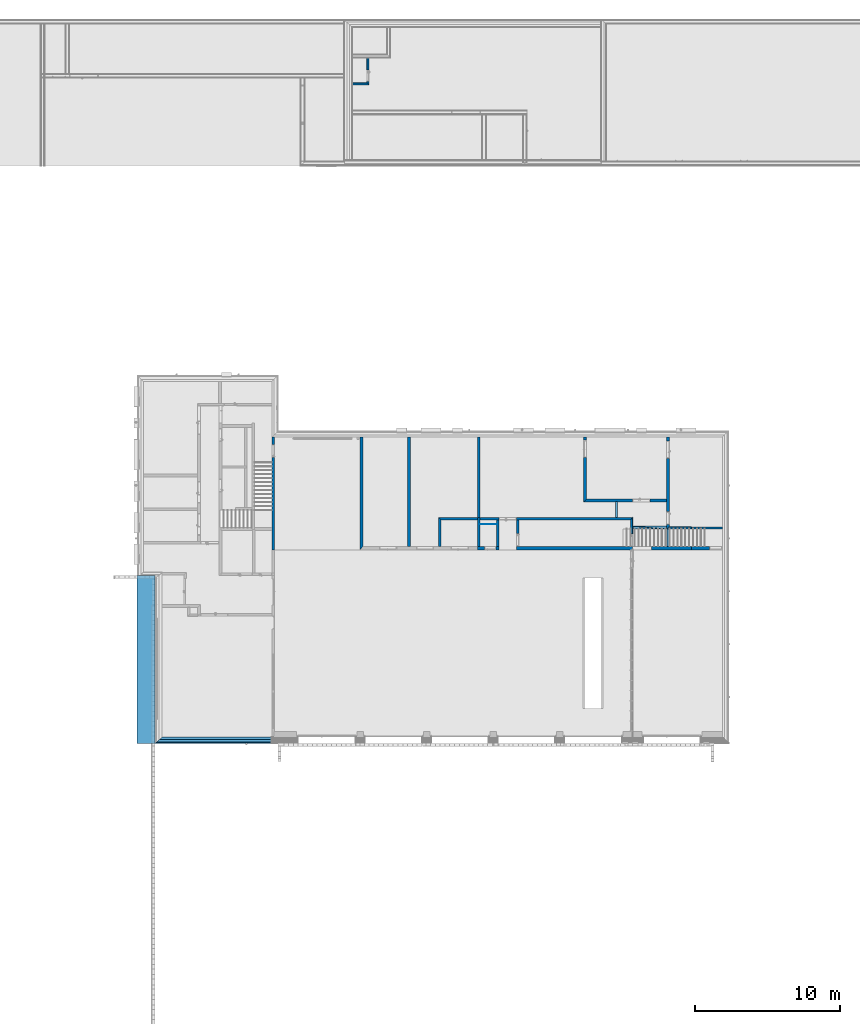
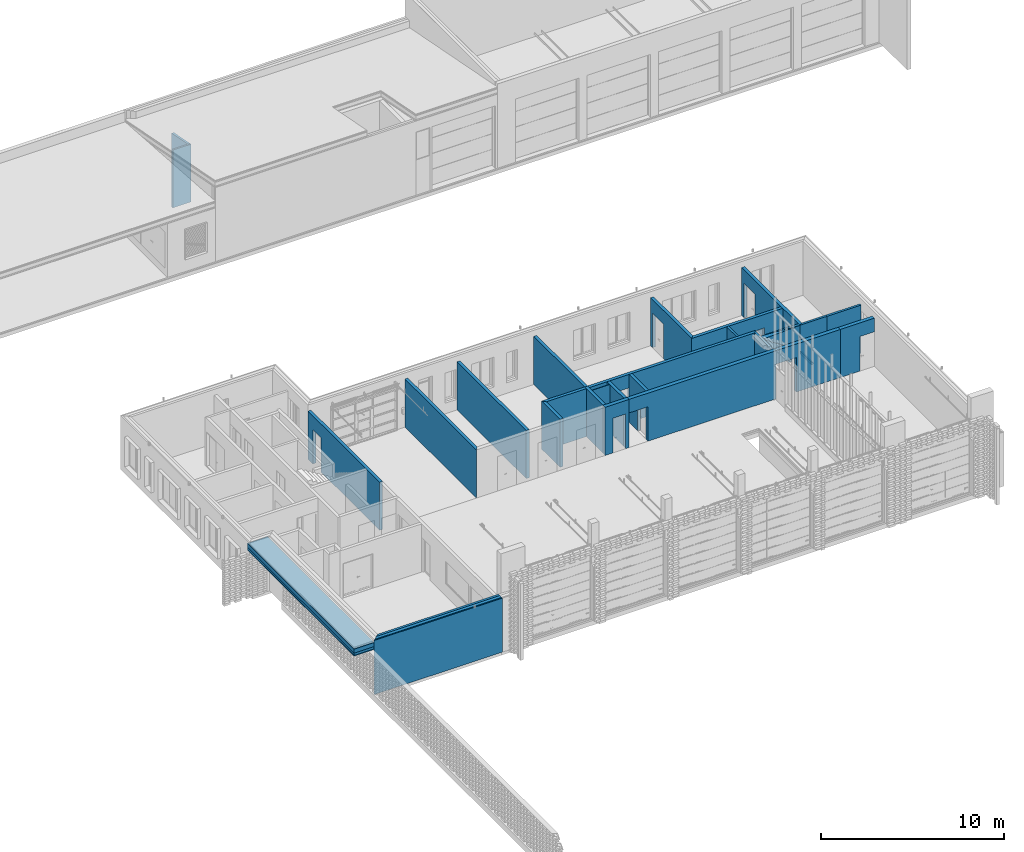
# One storey, part 11 of 62: 24 walls, 8 building element parts, 15 openings, 2 elements without a shape of their own.
"""IFC2X3 building model written with IfcOpenShell, lengths in millimetres."""

from ifc_helpers import new_model, entity, si_unit, converted_unit, derived_unit, money_unit, direction, frame, origin_with_axes, origin_2d_with_axis, place, context, subcontext, project, spatial, polyline, rectangle, outline, extrude, boolean, clip, halfspace, faceted_brep, material, layer, layer_set, layer_usage, type_object, element, aggregate, save


model = new_model("IFC2X3")

# Units and contexts
model_context = context("Model", 3, precision=0.01, world=origin_with_axes(), true_north=direction((0.0, 1.0)))
body_context = subcontext(model_context, "Body", "Model", "MODEL_VIEW")
ifc_project = project(units=[si_unit("LENGTHUNIT", "METRE", prefix="MILLI"), si_unit("AREAUNIT", "SQUARE_METRE"), si_unit("VOLUMEUNIT", "CUBIC_METRE"), converted_unit("PLANEANGLEUNIT", "DEGREE", entity("IfcPlaneAngleMeasure", 0.0174532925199), si_unit("PLANEANGLEUNIT", "RADIAN"), dimensions=[0, 0, 0, 0, 0, 0, 0]), si_unit("SOLIDANGLEUNIT", "STERADIAN"), money_unit("EUR"), converted_unit("TIMEUNIT", "Year", entity("IfcTimeMeasure", 31556926.0), si_unit("TIMEUNIT", "SECOND"), dimensions=[0, 0, 1, 0, 0, 0, 0]), si_unit("MASSUNIT", "GRAM", prefix="KILO"), si_unit("THERMODYNAMICTEMPERATUREUNIT", "DEGREE_CELSIUS"), si_unit("LUMINOUSINTENSITYUNIT", "LUMEN"), si_unit("ENERGYUNIT", "JOULE", prefix="MEGA"), derived_unit("THERMALCONDUCTANCEUNIT", [(si_unit("POWERUNIT", "WATT"), 1), (si_unit("LENGTHUNIT", "METRE"), -1), (si_unit("THERMODYNAMICTEMPERATUREUNIT", "KELVIN"), -1)]), derived_unit("SPECIFICHEATCAPACITYUNIT", [(si_unit("ENERGYUNIT", "JOULE"), 1), (si_unit("MASSUNIT", "GRAM", prefix="KILO"), -1), (si_unit("THERMODYNAMICTEMPERATUREUNIT", "KELVIN"), -1)]), derived_unit("MASSDENSITYUNIT", [(si_unit("MASSUNIT", "GRAM", prefix="KILO"), 1), (si_unit("VOLUMEUNIT", "CUBIC_METRE"), -1)])], contexts=[model_context])

# Site, building, storey
site_placement = place(None, origin_with_axes())
site = spatial("IfcSite", under=ifc_project, at=site_placement, Name="KIRDE 14, ELVA", CompositionType="ELEMENT")
building_placement = place(site_placement, origin_with_axes())
building = spatial("IfcBuilding", under=site, at=building_placement, Name="PPA ja Päästeameti ühishoone", CompositionType="ELEMENT")
storey_placement = place(building_placement, origin_with_axes())
storey = spatial("IfcBuildingStorey", under=building, at=storey_placement, Name="Esimene korrus", CompositionType="ELEMENT", Elevation=0.0)

# Wall, opening
ifc_material_1 = material(Name="COLUMBIA KIVI (BETONEERITUD)")
ifc_layer_1 = layer(ifc_material_1, 240.0, ventilated="UNKNOWN")
ifc_layer_set_1 = layer_set([ifc_layer_1], Name="SS-01")
ifc_layer_usage_1 = layer_usage(ifc_layer_set_1, "AXIS2", "POSITIVE", 0.0)
wall_type_1 = type_object("IfcWallType", Name="SS-01 240", PredefinedType="USERDEFINED")
wall_1_placement = place(storey_placement, frame((37905.0001701, 12960.0005639, 0.0), z_axis=(0.0, 0.0, 1.0), x_axis=(1.0, 4.35257523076e-10, 0.0)))
wall_1 = element("IfcWallStandardCase", 1, at=wall_1_placement, inside=storey, type_object=wall_type_1, material=ifc_layer_usage_1, Name="SS-01", ObjectType="PARTITIONING", context=body_context, shape_type="SweptSolid", body=[
    extrude(outline(polyline([(0.0, 0.0), (2139.70471232, 0.0), (2139.70471242, 240.0), (1.57079682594e-07, 240.0), (0.0, 0.0)])), origin_with_axes(), (0.0, 0.0, 1.0), 3200.0),
])
opening_1_placement = place(wall_1_placement, frame((1689.7047154, 0.0, 0.0), z_axis=(0.0, 0.0, 1.0), x_axis=(1.0, 0.0, 0.0)))
element("IfcOpeningElement", 2, at=opening_1_placement, cuts=wall_1, Name="SU-17*", context=body_context, shape_type="SweptSolid", body=[
    extrude(rectangle(XDim=900.0, YDim=2300.0, at=origin_2d_with_axis()), frame((1.04463993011e-07, 240.0, 1150.0), z_axis=(4.35257523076e-10, 1.0, 0.0), x_axis=(1.0, -4.3525764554e-10, 0.0)), (0.0, 0.0, -1.0), 720.0),
])

# Wall, openings
ifc_layer_usage_2 = layer_usage(ifc_layer_set_1, "AXIS2", "POSITIVE", 0.0)
wall_2_placement = place(storey_placement, frame((24605.5973624, 12960.0005795, 0.0), z_axis=(0.0, 0.0, 1.0), x_axis=(1.0, -8.73701208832e-10, 0.0)))
wall_2 = element("IfcWallStandardCase", 3, at=wall_2_placement, inside=storey, type_object=wall_type_1, material=ifc_layer_usage_2, Name="SS-01", ObjectType="PARTITIONING", context=body_context, shape_type="SweptSolid", body=[
    extrude(outline(polyline([(0.0, 0.0), (13299.4028077, 0.0), (13299.4028076, 240.0), (-1.04844133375e-07, 240.0), (0.0, 0.0)])), origin_with_axes(), (0.0, 0.0, 1.0), 3200.0),
])
opening_2_placement = place(wall_2_placement, frame((9889.40333161, 0.0, 0.0), z_axis=(0.0, 0.0, 1.0), x_axis=(1.0, 0.0, 0.0)))
element("IfcOpeningElement", 4, at=opening_2_placement, cuts=wall_2, context=body_context, shape_type="SweptSolid", body=[
    extrude(rectangle(XDim=1300.0, YDim=2300.0, at=origin_2d_with_axis()), frame((0.0, 8.64038440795e-06, 1150.0), z_axis=(-8.73701208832e-10, 1.0, 0.0), x_axis=(1.0, 8.73701208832e-10, 0.0)), (0.0, 0.0, -1.0), 240.0),
    extrude(rectangle(XDim=1300.0, YDim=2300.0, at=origin_2d_with_axis()), frame((0.0, 8.64038440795e-06, 1150.0), z_axis=(8.73701208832e-10, -1.0, 0.0), x_axis=(1.0, 8.73701208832e-10, 0.0)), (0.0, 0.0, -1.0), 240.0),
])
opening_3_placement = place(wall_2_placement, frame((599.99999968, 0.0, 0.0), z_axis=(0.0, 0.0, 1.0), x_axis=(1.0, 0.0, 0.0)))
element("IfcOpeningElement", 5, at=opening_3_placement, cuts=wall_2, context=body_context, shape_type="SweptSolid", body=[
    extrude(rectangle(XDim=1199.99999915, YDim=2300.0, at=origin_2d_with_axis()), frame((0.0, 5.24220666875e-07, 1150.0), z_axis=(-8.73701208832e-10, 1.0, 0.0), x_axis=(1.0, 8.73701208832e-10, 0.0)), (0.0, 0.0, -1.0), 240.0),
    extrude(rectangle(XDim=1199.99999915, YDim=2300.0, at=origin_2d_with_axis()), frame((0.0, 5.24220666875e-07, 1150.0), z_axis=(8.73701208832e-10, -1.0, 0.0), x_axis=(1.0, 8.73701208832e-10, 0.0)), (0.0, 0.0, -1.0), 240.0),
])

# Wall, opening
ifc_layer_usage_3 = layer_usage(ifc_layer_set_1, "AXIS2", "POSITIVE", 0.0)
wall_3_placement = place(storey_placement, frame((23105.5973624, 12960.0005639, 0.0), z_axis=(0.0, 0.0, 1.0), x_axis=(1.0, 0.0, 0.0)))
wall_3 = element("IfcWallStandardCase", 6, at=wall_3_placement, inside=storey, type_object=wall_type_1, material=ifc_layer_usage_3, Name="SS-01", ObjectType="PARTITIONING", context=body_context, shape_type="SweptSolid", body=[
    extrude(outline(polyline([(0.0, 0.0), (1500.0, 0.0), (1500.0000001, 240.0), (-4.13642453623e-08, 240.0), (0.0, 0.0)])), origin_with_axes(), (0.0, 0.0, 1.0), 3200.0),
])
opening_4_placement = place(wall_3_placement, frame((890.000000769, 0.0, 0.0), z_axis=(0.0, 0.0, 1.0), x_axis=(1.0, 0.0, 0.0)))
element("IfcOpeningElement", 7, at=opening_4_placement, cuts=wall_3, Name="SU-13", context=body_context, shape_type="SweptSolid", body=[
    extrude(rectangle(XDim=800.0, YDim=2300.0, at=origin_2d_with_axis()), frame((0.0, 240.0, 1150.0), z_axis=(0.0, 1.0, 0.0), x_axis=(1.0, 0.0, 0.0)), (0.0, 0.0, -1.0), 720.0),
])

# Wall, openings
ifc_layer_2 = layer(ifc_material_1, 190.0, ventilated="UNKNOWN")
ifc_layer_set_2 = layer_set([ifc_layer_2], Name="SS-02")
ifc_layer_usage_4 = layer_usage(ifc_layer_set_2, "AXIS2", "NEGATIVE", 0.0)
wall_type_2 = type_object("IfcWallType", Name="SS-02 190", PredefinedType="USERDEFINED")
wall_4_placement = place(storey_placement, frame((36194.7090602, 14405.0003528, 0.0), z_axis=(0.0, 0.0, 1.0), x_axis=(0.0, 1.0, 0.0)))
wall_4 = element("IfcWallStandardCase", 8, at=wall_4_placement, inside=storey, type_object=wall_type_2, material=ifc_layer_usage_4, Name="SS-02", ObjectType="PARTITIONING", context=body_context, shape_type="SweptSolid", body=[
    extrude(outline(polyline([(140.0, -190.0), (6344.59128709, -190.0), (6344.59128702, 0.0), (0.0, 0.0), (140.0, -190.0)])), origin_with_axes(), (0.0, 0.0, 1.0), 3200.0),
])
opening_5_placement = place(wall_4_placement, frame((740.0, 0.0, 0.0), z_axis=(0.0, 0.0, 1.0), x_axis=(1.0, 0.0, 0.0)))
element("IfcOpeningElement", 9, at=opening_5_placement, cuts=wall_4, Name="SU-15", context=body_context, shape_type="SweptSolid", body=[
    extrude(rectangle(XDim=900.0, YDim=2300.0, at=origin_2d_with_axis()), frame((0.0, 190.0, 1150.0), z_axis=(0.0, -1.0, 0.0), x_axis=(-1.0, 0.0, 0.0)), (0.0, 0.0, 1.0), 570.0),
])
opening_6_placement = place(wall_4_placement, frame((5484.68137352, 0.0, 0.0), z_axis=(0.0, 0.0, 1.0), x_axis=(1.0, 0.0, 0.0)))
element("IfcOpeningElement", 10, at=opening_6_placement, cuts=wall_4, Name="SU-16", context=body_context, shape_type="SweptSolid", body=[
    extrude(rectangle(XDim=1200.0, YDim=2300.0, at=origin_2d_with_axis()), frame((0.0, -190.0, 1150.0), z_axis=(0.0, -1.0, 0.0), x_axis=(1.0, 0.0, 0.0)), (0.0, 0.0, -1.0), 570.0),
])

# Wall, opening
ifc_layer_usage_5 = layer_usage(ifc_layer_set_2, "AXIS2", "NEGATIVE", 0.0)
wall_5_placement = place(storey_placement, frame((30459.7991696, 16270.681719, 0.0), z_axis=(0.0, 0.0, 1.0), x_axis=(0.0, 1.0, 0.0)))
wall_5 = element("IfcWallStandardCase", 11, at=wall_5_placement, inside=storey, type_object=wall_type_2, material=ifc_layer_usage_5, Name="SS-02", ObjectType="PARTITIONING", context=body_context, shape_type="SweptSolid", body=[
    extrude(outline(polyline([(190.000000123, -190.0), (4478.9099186, -190.0), (4478.90991852, 0.0), (0.0, 0.0), (190.000000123, -190.0)])), origin_with_axes(), (0.0, 0.0, 1.0), 3200.0),
])
opening_7_placement = place(wall_5_placement, frame((3669.00000353, 0.0, 0.0), z_axis=(0.0, 0.0, 1.0), x_axis=(1.0, 0.0, 0.0)))
element("IfcOpeningElement", 12, at=opening_7_placement, cuts=wall_5, Name="SU-16", context=body_context, shape_type="SweptSolid", body=[
    extrude(rectangle(XDim=1200.0, YDim=2300.0, at=origin_2d_with_axis()), frame((0.0, -190.0, 1150.0), z_axis=(0.0, 1.0, 0.0), x_axis=(1.0, 0.0, 0.0)), (0.0, 0.0, 1.0), 570.0),
])

# Walls
ifc_layer_usage_6 = layer_usage(ifc_layer_set_2, "AXIS2", "NEGATIVE", 0.0)
wall_6_placement = place(storey_placement, frame((24415.5973398, 12960.0005639, 0.0), z_axis=(0.0, 0.0, 1.0), x_axis=(0.0, 1.0, 0.0)))
element("IfcWallStandardCase", 13, at=wall_6_placement, inside=storey, type_object=wall_type_2, material=ifc_layer_usage_6, Name="SS-02", ObjectType="PARTITIONING", context=body_context, shape_type="SweptSolid", body=[
    extrude(outline(polyline([(240.0, -190.0), (2057.37070352, -190.0), (2057.37070352, 0.0), (240.0, 0.0), (240.0, -190.0)])), origin_with_axes(), (0.0, 0.0, 1.0), 3200.0),
])
ifc_layer_usage_7 = layer_usage(ifc_layer_set_2, "AXIS2", "NEGATIVE", 0.0)
wall_7_placement = place(storey_placement, frame((23105.5973617, 12960.0005639, 0.0), z_axis=(0.0, 0.0, 1.0), x_axis=(0.0, 1.0, 0.0)))
element("IfcWallStandardCase", 14, at=wall_7_placement, inside=storey, type_object=wall_type_2, material=ifc_layer_usage_7, Name="SS-02", ObjectType="PARTITIONING", context=body_context, shape_type="SweptSolid", body=[
    extrude(outline(polyline([(240.0, -190.0), (2227.37070141, -190.0), (2227.37070138, 0.0), (240.0, 0.0), (240.0, -190.0)])), origin_with_axes(), (0.0, 0.0, 1.0), 3200.0),
])
ifc_layer_usage_8 = layer_usage(ifc_layer_set_2, "AXIS2", "NEGATIVE", 0.0)
wall_8_placement = place(storey_placement, frame((20404.8316405, 12960.0005656, 0.0), z_axis=(0.0, 0.0, 1.0), x_axis=(0.0, 1.0, 0.0)))
element("IfcWallStandardCase", 15, at=wall_8_placement, inside=storey, type_object=wall_type_2, material=ifc_layer_usage_8, Name="SS-02", ObjectType="PARTITIONING", context=body_context, shape_type="SweptSolid", body=[
    extrude(outline(polyline([(240.000000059, -190.0), (2057.37070184, -190.0), (2247.37070184, 0.0), (239.999999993, 0.0), (240.000000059, -190.0)])), origin_with_axes(), (0.0, 0.0, 1.0), 3200.0),
])
ifc_layer_usage_9 = layer_usage(ifc_layer_set_2, "AXIS2", "NEGATIVE", 0.0)
wall_9_placement = place(storey_placement, frame((18275.8940318, 12960.0005649, 0.0), z_axis=(0.0, 0.0, 1.0), x_axis=(-4.76955186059e-10, 1.0, 0.0)))
element("IfcWallStandardCase", 16, at=wall_9_placement, inside=storey, type_object=wall_type_2, material=ifc_layer_usage_9, Name="SS-02", ObjectType="PARTITIONING", context=body_context, shape_type="SweptSolid", body=[
    extrude(outline(polyline([(239.999999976, -190.0), (7789.59106796, -190.0), (7789.59106797, 0.0), (240.000000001, 0.0), (239.999999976, -190.0)])), origin_with_axes(), (0.0, 0.0, 1.0), 3200.0),
])
ifc_layer_usage_10 = layer_usage(ifc_layer_set_2, "AXIS2", "NEGATIVE", 0.0)
wall_10_placement = place(storey_placement, frame((15000.0001537, 12960.0005637, 0.0), z_axis=(0.0, 0.0, 1.0), x_axis=(0.0, 1.0, 0.0)))
element("IfcWallStandardCase", 17, at=wall_10_placement, inside=storey, type_object=wall_type_2, material=ifc_layer_usage_10, Name="SS-02", ObjectType="PARTITIONING", context=body_context, shape_type="SweptSolid", body=[
    extrude(outline(polyline([(240.000000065, -190.0), (7789.5910679, -190.0), (7789.59106783, 0.0), (0.0, 0.0), (240.000000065, -190.0)])), origin_with_axes(), (0.0, 0.0, 1.0), 3200.0),
])

# Wall, opening
ifc_layer_usage_11 = layer_usage(ifc_layer_set_2, "AXIS2", "POSITIVE", -190.0)
wall_11_placement = place(storey_placement, frame((9090.00013815, 20749.5916283, 0.0), z_axis=(0.0, 0.0, 1.0), x_axis=(4.17334458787e-10, -1.0, 0.0)))
wall_11 = element("IfcWallStandardCase", 18, at=wall_11_placement, inside=storey, type_object=wall_type_2, material=ifc_layer_usage_11, Name="SS-02", ObjectType="PARTITIONING", context=body_context, shape_type="SweptSolid", body=[
    extrude(outline(polyline([(-1.01061559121e-06, -190.0), (7810.5915831, -190.0), (7810.59158314, 0.0), (-1.005183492e-06, 0.0), (-1.01061559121e-06, -190.0)])), origin_with_axes(), (0.0, 0.0, 1.0), 3200.0),
])
opening_8_placement = place(wall_11_placement, frame((967.347169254, 0.0, 0.0), z_axis=(0.0, 0.0, 1.0), x_axis=(1.0, 0.0, 0.0)))
element("IfcOpeningElement", 19, at=opening_8_placement, cuts=wall_11, Name="SU-17*", context=body_context, shape_type="SweptSolid", body=[
    extrude(rectangle(XDim=900.0, YDim=2300.0, at=origin_2d_with_axis()), frame((0.0, -190.0, 1150.0), z_axis=(-4.17334458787e-10, -1.0, 0.0), x_axis=(-1.0, 4.17334642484e-10, 0.0)), (0.0, 0.0, -1.0), 570.0),
])

ifc_layer_usage_12 = layer_usage(ifc_layer_set_2, "AXIS2", "POSITIVE", 0.0)
wall_12_placement = place(storey_placement, frame((30459.7991714, 16270.681719, 0.0), z_axis=(0.0, 0.0, 1.0), x_axis=(1.0, 6.49581313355e-10, 0.0)))
wall_12 = element("IfcWallStandardCase", 20, at=wall_12_placement, inside=storey, type_object=wall_type_2, material=ifc_layer_usage_12, Name="SS-02", ObjectType="PARTITIONING", context=body_context, shape_type="SweptSolid", body=[
    extrude(outline(polyline([(-1.86264514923e-06, 0.0), (5734.90988882, 0.0), (5734.90988895, 190.0), (189.999998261, 190.0), (-1.86264514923e-06, 0.0)])), origin_with_axes(), (0.0, 0.0, 1.0), 3200.0),
])
opening_9_placement = place(wall_12_placement, frame((3985.20152122, 0.0, 0.0), z_axis=(0.0, 0.0, 1.0), x_axis=(1.0, 0.0, 0.0)))
element("IfcOpeningElement", 21, at=opening_9_placement, cuts=wall_12, Name="SU-12", context=body_context, shape_type="SweptSolid", body=[
    extrude(rectangle(XDim=1200.0, YDim=2300.0, at=origin_2d_with_axis()), frame((1.23421273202e-07, 190.0, 1150.0), z_axis=(-6.49581313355e-10, -1.0, 0.0), x_axis=(1.0, -6.49581313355e-10, 0.0)), (0.0, 0.0, 1.0), 570.0),
])

ifc_layer_usage_13 = layer_usage(ifc_layer_set_2, "AXIS2", "POSITIVE", 0.0)
wall_13_placement = place(storey_placement, frame((25805.5973616, 15207.3712638, 0.0), z_axis=(0.0, 0.0, 1.0), x_axis=(0.0, -1.0, 0.0)))
wall_13 = element("IfcWallStandardCase", 22, at=wall_13_placement, inside=storey, type_object=wall_type_2, material=ifc_layer_usage_13, Name="SS-02", ObjectType="PARTITIONING", context=body_context, shape_type="SweptSolid", body=[
    extrude(outline(polyline([(189.999996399, 0.0), (2007.37068536, 0.0), (2007.37068552, 190.0), (189.999996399, 190.0), (189.999996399, 0.0)])), origin_with_axes(), (0.0, 0.0, 1.0), 3200.0),
])
opening_10_placement = place(wall_13_placement, frame((1557.37070152, 0.0, 0.0), z_axis=(0.0, 0.0, 1.0), x_axis=(1.0, 0.0, 0.0)))
element("IfcOpeningElement", 23, at=opening_10_placement, cuts=wall_13, Name="SU-14", context=body_context, shape_type="SweptSolid", body=[
    extrude(rectangle(XDim=900.0, YDim=2300.0, at=origin_2d_with_axis()), frame((0.0, 190.0, 1150.0), z_axis=(0.0, -1.0, 0.0), x_axis=(1.0, 0.0, 0.0)), (0.0, 0.0, 1.0), 570.0),
])

# Wall
ifc_layer_usage_14 = layer_usage(ifc_layer_set_2, "AXIS2", "NEGATIVE", 0.0)
wall_14_placement = place(storey_placement, frame((23105.5973617, 15187.3712653, 0.0), z_axis=(0.0, 0.0, 1.0), x_axis=(-2.93015090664e-10, 1.0, 0.0)))
element("IfcWallStandardCase", 24, at=wall_14_placement, inside=storey, type_object=wall_type_2, material=ifc_layer_usage_14, Name="SS-02", ObjectType="PARTITIONING", context=body_context, shape_type="SweptSolid", body=[
    extrude(outline(polyline([(-2.78372880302e-08, -190.0), (5562.22036942, -190.0), (5562.2203694, 0.0), (0.0, 0.0), (-2.78372880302e-08, -190.0)])), origin_with_axes(), (0.0, 0.0, 1.0), 3200.0),
])

# Wall, opening
ifc_layer_usage_15 = layer_usage(ifc_layer_set_2, "AXIS2", "NEGATIVE", 0.0)
wall_15_placement = place(storey_placement, frame((20404.8316391, 15207.3712674, 0.0), z_axis=(0.0, 0.0, 1.0), x_axis=(1.0, 0.0, 0.0)))
wall_15 = element("IfcWallStandardCase", 25, at=wall_15_placement, inside=storey, type_object=wall_type_2, material=ifc_layer_usage_15, Name="SS-02", ObjectType="PARTITIONING", context=body_context, shape_type="SweptSolid", body=[
    extrude(outline(polyline([(190.000001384, -190.0), (13295.1690317, -190.0), (13435.1690317, 0.0), (1.3842509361e-06, 0.0), (190.000001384, -190.0)])), origin_with_axes(), (0.0, 0.0, 1.0), 3200.0),
])
opening_11_placement = place(wall_15_placement, frame((4800.76572309, 0.0, 0.0), z_axis=(0.0, 0.0, 1.0), x_axis=(1.0, 0.0, 0.0)))
element("IfcOpeningElement", 26, at=opening_11_placement, cuts=wall_15, Name="SU-12", context=body_context, shape_type="SweptSolid", body=[
    extrude(rectangle(XDim=1200.0, YDim=2300.0, at=origin_2d_with_axis()), frame((0.0, 190.0, 1150.0), z_axis=(0.0, 1.0, 0.0), x_axis=(1.0, 0.0, 0.0)), (0.0, 0.0, -1.0), 570.0),
])

# Wall
ifc_material_2 = material(Name="Kergplokk")
ifc_layer_3 = layer(ifc_material_2, 140.0, ventilated="UNKNOWN")
ifc_layer_set_3 = layer_set([ifc_layer_3], Name="SS-03 (COLUMBIA 140)")
ifc_layer_usage_16 = layer_usage(ifc_layer_set_3, "AXIS2", "NEGATIVE", 140.0)
wall_type_3 = type_object("IfcWallType", Name="SS-03 (COLUMBIA 140) 140", PredefinedType="USERDEFINED")
wall_16_placement = place(storey_placement, frame((36194.7090602, 14405.0003528, 0.0), z_axis=(0.0, 0.0, 1.0), x_axis=(1.0, 0.0, 0.0)))
element("IfcWallStandardCase", 27, at=wall_16_placement, inside=storey, type_object=wall_type_3, material=ifc_layer_usage_16, Name="SS-06", ObjectType="PARTITIONING", context=body_context, shape_type="SweptSolid", body=[
    extrude(outline(polyline([(0.0, 0.0), (1710.29110893, 0.0), (1710.2911089, 140.0), (190.0, 140.0), (0.0, 0.0)])), origin_with_axes(), (0.0, 0.0, 1.0), 3200.0),
])

# Wall, opening
wall_17_placement = place(storey_placement, frame((36344.7090625, 12960.0005672, 0.0), z_axis=(0.0, 0.0, 1.0), x_axis=(0.0, 1.0, 0.0)))
wall_17 = element("IfcWall", 28, at=wall_17_placement, inside=storey, type_object=wall_type_3, material=ifc_material_2, Name="SS-14", ObjectType="PARTITIONING", context=body_context, shape_type="CSG", body=[
    boolean("DIFFERENCE", extrude(outline(polyline([(0.0, 0.0), (1439.99999666, 0.0), (1439.99999666, 140.0), (0.0, 140.0), (0.0, 0.0)])), origin_with_axes(), (0.0, 0.0, 1.0), 1565.0444117), faceted_brep([(240.000002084, 0.0, 0.0), (239.999989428, 0.0, 1401.44401583), (1439.99999605, 0.0, 1401.44401552), (1439.99999666, 0.0, 1565.0444117), (0.0, 0.0, 1565.0444117), (0.0, 0.0, 0.0), (240.000002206, 140.0, 0.0), (239.999989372, 140.0, 1490.33290472), (239.999989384, 110.00417697, 1471.28793771), (239.99998942, 20.0041769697, 1414.14508057), (1439.99999604, 20.0041774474, 1414.14508057), (1439.999996, 110.004177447, 1471.28793771), (1439.99999599, 140.0, 1490.33290441), (1439.99999666, 140.0, 1565.0444117), (0.0, 140.0, 1565.0444117), (0.0, 140.0, 0.0)], [[[0, 1, 2, 3, 4, 5]], [[1, 0, 6, 7, 8, 9]], [[10, 2, 1, 9]], [[11, 12, 13, 3, 2, 10]], [[14, 4, 3, 13]], [[14, 15, 5, 4]], [[6, 0, 5, 15]], [[7, 6, 15, 14, 13, 12]], [[12, 11, 8, 7]], [[11, 10, 9, 8]]])),
])
opening_12_placement = place(wall_17_placement, frame((839.999999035, 0.0, 0.0), z_axis=(0.0, 0.0, 1.0), x_axis=(1.0, 0.0, 0.0)))
element("IfcOpeningElement", 29, at=opening_12_placement, cuts=wall_17, Name="SU-13", context=body_context, shape_type="SweptSolid", body=[
    extrude(rectangle(XDim=1199.9999939, YDim=1300.0, at=origin_2d_with_axis()), frame((0.0, 140.0, 650.0), z_axis=(0.0, -1.0, 0.0), x_axis=(1.0, 0.0, 0.0)), (0.0, 0.0, -1.0), 140.0),
    extrude(rectangle(XDim=1199.9999939, YDim=1300.0, at=origin_2d_with_axis()), frame((0.0, 140.0, 650.0), z_axis=(0.0, 1.0, 0.0), x_axis=(1.0, 0.0, 0.0)), (0.0, 0.0, -1.0), 140.0),
])

ifc_layer_usage_17 = layer_usage(ifc_layer_set_3, "AXIS2", "NEGATIVE", 140.0)
wall_18_placement = place(storey_placement, frame((32811.5289337, 15187.371269, 0.0), z_axis=(0.0, 0.0, 1.0), x_axis=(-4.2244114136e-10, 1.0, 0.0)))
wall_18 = element("IfcWallStandardCase", 30, at=wall_18_placement, inside=storey, type_object=wall_type_3, material=ifc_layer_usage_17, Name="SS-13", ObjectType="PARTITIONING", context=body_context, shape_type="SweptSolid", body=[
    extrude(outline(polyline([(0.0, 0.0), (1102.31045634, 0.0), (1102.31045634, 140.0), (0.0, 140.0), (0.0, 0.0)])), origin_with_axes(), (0.0, 0.0, 1.0), 3200.0),
])
opening_13_placement = place(wall_18_placement, frame((551.155227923, 0.0, 0.0), z_axis=(0.0, 0.0, 1.0), x_axis=(1.0, 0.0, 0.0)))
element("IfcOpeningElement", 31, at=opening_13_placement, cuts=wall_18, context=body_context, shape_type="SweptSolid", body=[
    extrude(rectangle(XDim=1102.31045585, YDim=2300.0, at=origin_2d_with_axis()), frame((0.0, -2.32830643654e-07, 1150.0), z_axis=(4.2244114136e-10, 1.0, 0.0), x_axis=(1.0, -4.22441202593e-10, 0.0)), (0.0, 0.0, -1.0), 140.0),
    extrude(rectangle(XDim=1102.31045585, YDim=2300.0, at=origin_2d_with_axis()), frame((0.0, -2.32830643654e-07, 1150.0), z_axis=(-4.2244114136e-10, -1.0, 0.0), x_axis=(1.0, -4.22441202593e-10, 0.0)), (0.0, 0.0, -1.0), 140.0),
])

ifc_layer_usage_18 = layer_usage(ifc_layer_set_3, "AXIS2", "POSITIVE", -140.0)
wall_19_placement = place(storey_placement, frame((15607.7764983, 46991.7591423, 0.0), z_axis=(0.0, 0.0, 1.0), x_axis=(0.0, -1.0, 0.0)))
wall_19 = element("IfcWallStandardCase", 32, at=wall_19_placement, inside=storey, type_object=wall_type_3, material=ifc_layer_usage_18, Name="ASS-01", ObjectType="PARTITIONING", context=body_context, shape_type="Clipping", body=[
    clip(extrude(outline(polyline([(-5.14347675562e-07, -140.0), (1743.60562925, -140.0), (1883.60562925, 0.0), (-5.14347675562e-07, 0.0), (-5.14347675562e-07, -140.0)])), origin_with_axes(), (0.0, 0.0, 1.0), 4242.94093413), halfspace(frame((-650.580307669, -2.28603527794e-07, 3352.957647), z_axis=(0.190479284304, 0.0, -0.981691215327), x_axis=(0.0, 1.0, 0.0)), True)),
])
opening_14_placement = place(wall_19_placement, frame((1249.80792898, 0.0, 0.0), z_axis=(0.0, 0.0, 1.0), x_axis=(1.0, 0.0, 0.0)))
element("IfcOpeningElement", 33, at=opening_14_placement, cuts=wall_19, Name="SU-13", context=body_context, shape_type="SweptSolid", body=[
    extrude(rectangle(XDim=800.0, YDim=2300.0, at=origin_2d_with_axis()), frame((0.0, -140.0, 1150.0), z_axis=(0.0, 1.0, 0.0), x_axis=(1.0, 0.0, 0.0)), (0.0, 0.0, 1.0), 420.0),
])

ifc_layer_usage_19 = layer_usage(ifc_layer_set_3, "AXIS2", "NEGATIVE", 140.0)
wall_20_placement = place(storey_placement, frame((33840.0006708, 12960.000566, 0.0), z_axis=(0.0, 0.0, 1.0), x_axis=(0.0, 1.0, 0.0)))
wall_20 = element("IfcWallStandardCase", 34, at=wall_20_placement, inside=storey, type_object=wall_type_3, material=ifc_layer_usage_19, Name="SS-03", ObjectType="PARTITIONING", context=body_context, shape_type="SweptSolid", body=[
    extrude(outline(polyline([(240.000005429, 0.0), (2247.37070141, 0.0), (2057.37070141, 140.0), (240.000005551, 140.0), (240.000005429, 0.0)])), origin_with_axes(), (0.0, 0.0, 1.0), 3200.0),
])
opening_15_placement = place(wall_20_placement, frame((668.999304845, 0.0, 0.0), z_axis=(0.0, 0.0, 1.0), x_axis=(1.0, 0.0, 0.0)))
element("IfcOpeningElement", 35, at=opening_15_placement, cuts=wall_20, Name="SU-15", context=body_context, shape_type="SweptSolid", body=[
    extrude(rectangle(XDim=900.0, YDim=2300.0, at=origin_2d_with_axis()), frame((0.0, 140.0, 1150.0), z_axis=(0.0, 1.0, 0.0), x_axis=(-1.0, 0.0, 0.0)), (0.0, 0.0, -1.0), 420.0),
])

# Walls
ifc_layer_usage_20 = layer_usage(ifc_layer_set_3, "AXIS2", "NEGATIVE", 140.0)
wall_21_placement = place(storey_placement, frame((37905.0001692, 14405.0003528, 0.0), z_axis=(0.0, 0.0, 1.0), x_axis=(1.0, 4.35257522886e-10, 0.0)))
element("IfcWallStandardCase", 36, at=wall_21_placement, inside=storey, type_object=wall_type_3, material=ifc_layer_usage_20, Name="SS-06", ObjectType="PARTITIONING", context=body_context, shape_type="SweptSolid", body=[
    extrude(outline(polyline([(0.0, 0.0), (2139.70471325, 0.0), (2139.70471331, 140.0), (3.04751779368e-08, 140.0), (0.0, 0.0)])), origin_with_axes(), (0.0, 0.0, 1.0), 3200.0),
])
ifc_layer_usage_21 = layer_usage(ifc_layer_set_3, "AXIS2", "POSITIVE", -140.0)
wall_22_placement = place(storey_placement, frame((15607.7764983, 45108.1535131, 0.0), z_axis=(0.0, 0.0, 1.0), x_axis=(-1.0, 0.0, 0.0)))
element("IfcWallStandardCase", 37, at=wall_22_placement, inside=storey, type_object=wall_type_3, material=ifc_layer_usage_21, Name="ASS-01", ObjectType="PARTITIONING", context=body_context, shape_type="Clipping", body=[
    clip(extrude(outline(polyline([(140.0, -140.0), (1156.80336605, -140.0), (1156.80336605, 0.0), (0.0, 0.0), (140.0, -140.0)])), origin_with_axes(), (0.0, 0.0, 1.0), 4242.94093413), halfspace(frame((2.52617693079e-07, -718.921960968, 3705.17652964), z_axis=(0.0, 0.190479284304, -0.981691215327), x_axis=(0.0, 0.981691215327, 0.190479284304)), True)),
])
ifc_material_3 = material(Name="Kipsplaat (3)")
ifc_layer_4 = layer(ifc_material_3, 24.0, ventilated="UNKNOWN")
ifc_layer_set_4 = layer_set([ifc_layer_4], Name="Kipsplaat (3) 24")
ifc_layer_usage_22 = layer_usage(ifc_layer_set_4, "AXIS2", "POSITIVE", -24.0)
wall_type_4 = type_object("IfcWallType", Name="Kipsplaat (3) 24", PredefinedType="USERDEFINED")
wall_23_placement = place(storey_placement, frame((24415.5973398, 14717.3712674, 0.0), z_axis=(0.0, 0.0, 1.0), x_axis=(-1.0, 0.0, 0.0)))
element("IfcWallStandardCase", 38, at=wall_23_placement, inside=storey, type_object=wall_type_4, material=ifc_layer_usage_22, Name="KIPSPLAAT", ObjectType="PARTITIONING", context=body_context, shape_type="SweptSolid", body=[
    extrude(outline(polyline([(0.0, -24.0), (1119.99997808, -24.0), (1119.99997808, 0.0), (0.0, 0.0), (0.0, -24.0)])), origin_with_axes(), (0.0, 0.0, 1.0), 3200.0),
])
wall_type_5 = type_object("IfcWallType", Name="MISSING", PredefinedType="USERDEFINED")
wall_24_placement = place(storey_placement, origin_with_axes())
element("IfcWall", 39, at=wall_24_placement, inside=storey, type_object=wall_type_5, Name="Vent pipe antifreeze-110", ObjectType="PARTITIONING", context=body_context, shape_type="Brep", body=[
    faceted_brep([(33845.0006926, 14590.0005639, 3097.93103768), (33845.0006926, 14590.0005639, 3200.0), (36194.7090602, 14590.0005639, 3200.0), (36194.7090602, 14590.0005639, 1553.8992341), (33845.4416895, 14400.0005622, 3097.93103768), (36194.7090602, 14400.0005639, 3200.0), (36194.7090625, 14400.0005632, 1553.8992341)], [[[0, 1, 2, 3]], [[4, 1, 0]], [[1, 5, 2]], [[2, 5, 6, 3]], [[4, 0, 3]], [[1, 4, 5]], [[5, 4, 6]], [[4, 3, 6]]]),
])

# Wall, building element parts
wall_type_6 = type_object("IfcWallType", Name="VS-01 430", PredefinedType="NOTDEFINED")
wall_25_placement = place(storey_placement, frame((8900.00016196, 3.70346242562e-06, 0.0), z_axis=(0.0, 0.0, 1.0), x_axis=(-1.0, -4.90169775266e-10, 0.0)))
wall_25 = element("IfcWall", 40, at=wall_25_placement, inside=storey, type_object=wall_type_6, Name="VS-01")
ifc_material_4 = material(Name="Raudbetoon Paneelid (2)")
building_element_part_1_placement = place(wall_25_placement, origin_with_axes())
building_element_part_1 = element("IfcBuildingElementPart", 41, at=building_element_part_1_placement, material=ifc_material_4, Name="Raudbetoon Paneelid (2)", context=body_context, shape_type="SweptSolid", body=[
    extrude(outline(polyline([(0.0, 0.0), (7600.00001872, 0.0), (7767.44187926, 150.0), (9.84989867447e-09, 150.0), (0.0, 0.0)])), origin_with_axes(), (0.0, 0.0, 1.0), 3600.0),
])
ifc_material_5 = material(Name="Vahtpolüstüreen (4)")
building_element_part_2_placement = place(wall_25_placement, origin_with_axes())
building_element_part_2 = element("IfcBuildingElementPart", 42, at=building_element_part_2_placement, material=ifc_material_5, Name="Vahtpolüstüreen (4)", context=body_context, shape_type="SweptSolid", body=[
    extrude(outline(polyline([(9.84989867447e-09, 150.0), (7767.44187926, 150.0), (7990.69769331, 350.0), (2.29825047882e-08, 350.0), (9.84989867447e-09, 150.0)])), origin_with_axes(), (0.0, 0.0, 1.0), 3600.0),
])
building_element_part_3_placement = place(wall_25_placement, origin_with_axes())
building_element_part_3 = element("IfcBuildingElementPart", 43, at=building_element_part_3_placement, material=ifc_material_4, Name="Raudbetoon Paneelid (2)", context=body_context, shape_type="SweptSolid", body=[
    extrude(outline(polyline([(2.29825047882e-08, 350.0), (7990.69769331, 350.0), (8080.00001893, 430.0), (2.82369683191e-08, 430.0), (2.29825047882e-08, 350.0)])), origin_with_axes(), (0.0, 0.0, 1.0), 3600.0),
])
aggregate(wall_25, [building_element_part_1, building_element_part_2, building_element_part_3])

# Slab, building element parts
slab_type = type_object("IfcSlabType", Name="VL-01 RB/OONESPANEEL 265 soojustusega 601", PredefinedType="NOTDEFINED")
slab_placement = place(storey_placement, frame((-429.999983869, -429.99999872, 3600.0), z_axis=(0.0, 0.0, 1.0), x_axis=(1.0, 0.0, 0.0)))
slab = element("IfcSlab", 44, at=slab_placement, inside=storey, type_object=slab_type, Name="VL-02", PredefinedType="NOTDEFINED")
ifc_material_6 = material(Name="Laudis")
building_element_part_4_placement = place(slab_placement, origin_with_axes())
building_element_part_4 = element("IfcBuildingElementPart", 45, at=building_element_part_4_placement, material=ifc_material_6, Name="Laudis", context=body_context, shape_type="SweptSolid", body=[
    extrude(outline(polyline([(0.0, 0.0), (1250.00020163, 0.0), (1250.00020163, 11603.3966719), (0.0, 11603.3966719), (0.0, 0.0)])), frame((0.0, 0.0, -601.0), z_axis=(0.0, 0.0, 1.0), x_axis=(1.0, 0.0, 0.0)), (0.0, 0.0, 1.0), 21.0),
])
ifc_material_7 = material(Name="Air Space")
building_element_part_5_placement = place(slab_placement, origin_with_axes())
building_element_part_5 = element("IfcBuildingElementPart", 46, at=building_element_part_5_placement, material=ifc_material_7, Name="Air Space", context=body_context, shape_type="SweptSolid", body=[
    extrude(outline(polyline([(0.0, 0.0), (1250.00020163, 0.0), (1250.00020163, 11603.3966719), (0.0, 11603.3966719), (0.0, 0.0)])), frame((0.0, 0.0, -580.0), z_axis=(0.0, 0.0, 1.0), x_axis=(1.0, 0.0, 0.0)), (0.0, 0.0, 1.0), 30.0),
])
ifc_material_8 = material(Name="Mineraalvill")
building_element_part_6_placement = place(slab_placement, origin_with_axes())
building_element_part_6 = element("IfcBuildingElementPart", 47, at=building_element_part_6_placement, material=ifc_material_8, Name="Mineraalvill", context=body_context, shape_type="SweptSolid", body=[
    extrude(outline(polyline([(0.0, 0.0), (1250.00020163, 0.0), (1250.00020163, 11603.3966719), (0.0, 11603.3966719), (0.0, 0.0)])), frame((0.0, 0.0, -550.0), z_axis=(0.0, 0.0, 1.0), x_axis=(1.0, 0.0, 0.0)), (0.0, 0.0, 1.0), 150.0),
])
ifc_material_9 = material(Name="Raudbetoon Paneelid")
building_element_part_7_placement = place(slab_placement, origin_with_axes())
building_element_part_7 = element("IfcBuildingElementPart", 48, at=building_element_part_7_placement, material=ifc_material_9, Name="Raudbetoon Paneelid", context=body_context, shape_type="SweptSolid", body=[
    extrude(outline(polyline([(0.0, 0.0), (1250.00020163, 0.0), (1250.00020163, 11603.3966719), (0.0, 11603.3966719), (0.0, 0.0)])), frame((0.0, 0.0, -400.0), z_axis=(0.0, 0.0, 1.0), x_axis=(1.0, 0.0, 0.0)), (0.0, 0.0, 1.0), 265.0),
])
building_element_part_8_placement = place(slab_placement, origin_with_axes())
building_element_part_8 = element("IfcBuildingElementPart", 49, at=building_element_part_8_placement, material=ifc_material_8, Name="Mineraalvill", context=body_context, shape_type="SweptSolid", body=[
    extrude(outline(polyline([(0.0, 0.0), (1250.00020163, 0.0), (1250.00020163, 11603.3966719), (0.0, 11603.3966719), (0.0, 0.0)])), frame((0.0, 0.0, -135.0), z_axis=(0.0, 0.0, 1.0), x_axis=(1.0, 0.0, 0.0)), (0.0, 0.0, 1.0), 30.0),
])
aggregate(slab, [building_element_part_4, building_element_part_5, building_element_part_6, building_element_part_7, building_element_part_8])

save(model, "model.ifc")
